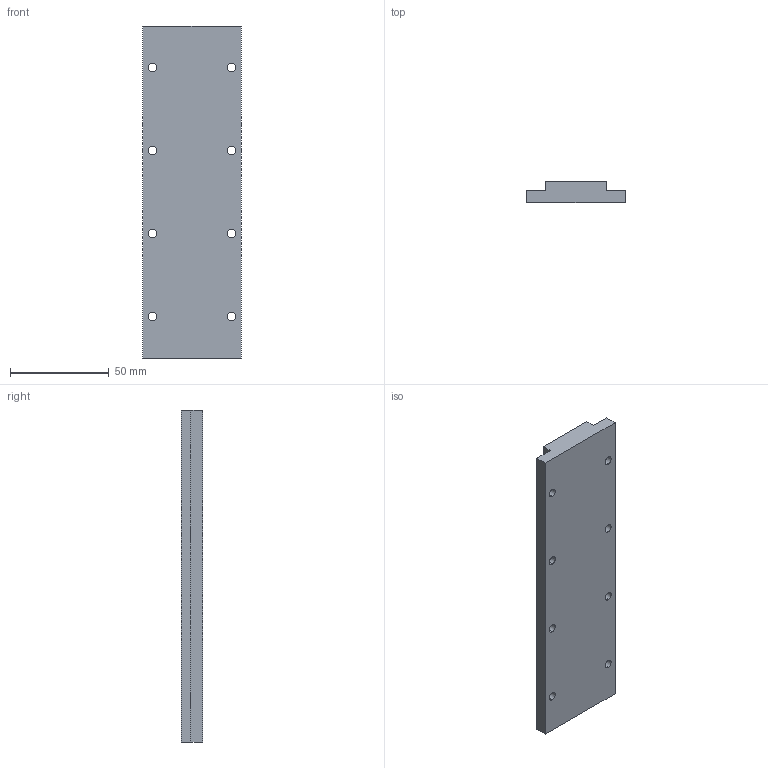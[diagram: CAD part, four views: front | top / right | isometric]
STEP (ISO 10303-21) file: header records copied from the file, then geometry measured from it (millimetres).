
FILE_DESCRIPTION (( 'STEP AP214' ), '1' );
FILE_NAME ('TLM-50-L168.STEP', '2022-05-12T08:01:11', ( 'Microsoft' ), ( 'Microsoft' ), 'SwSTEP 2.0', 'SolidWorks 2016', '' );
FILE_SCHEMA (( 'AUTOMOTIVE_DESIGN' ));
Length unit declared in the file: millimetre
Products named in the file (1): TLM-50-L168
Bounding box: 50 x 10.8 x 168 mm (x, y, z)
Volume: 74226.8 mm3; surface area: 21903.3 mm2
Topology: 1 solids, 1 shells, 50 faces, 120 edges, 80 vertices
Faces by surface type: cylinder 32, plane 18
Entity records: 1554 total; most frequent: DIRECTION 286, CARTESIAN_POINT 251, ORIENTED_EDGE 240, EDGE_CURVE 120, AXIS2_PLACEMENT_3D 115, VERTEX_POINT 80, EDGE_LOOP 74, CIRCLE 64
